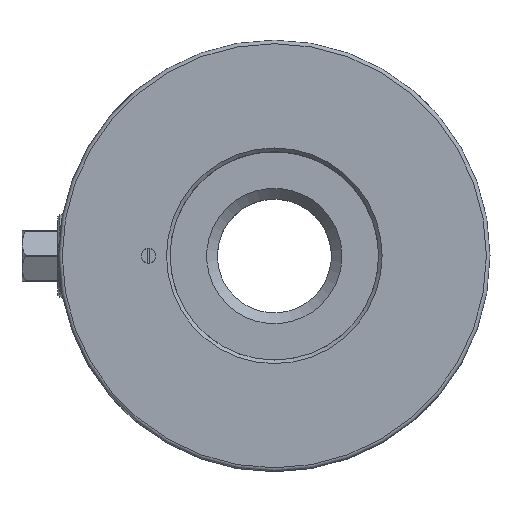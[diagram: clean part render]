
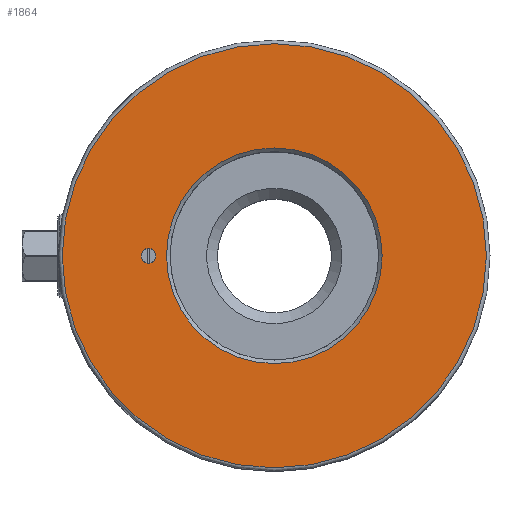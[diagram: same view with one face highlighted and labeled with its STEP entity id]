
A CAD part, top view. The second image highlights one B-rep face of the part: STEP entity #1864.
In plain terms, the highlighted planar face has unit normal (0, 0, 1).
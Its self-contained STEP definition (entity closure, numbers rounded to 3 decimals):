
#145=PLANE('',#1985);
#255=ORIENTED_EDGE('',*,*,#522,.T.);
#256=ORIENTED_EDGE('',*,*,#523,.T.);
#257=ORIENTED_EDGE('',*,*,#524,.T.);
#522=EDGE_CURVE('',#664,#664,#774,.T.);
#523=EDGE_CURVE('',#665,#665,#775,.T.);
#524=EDGE_CURVE('',#666,#666,#776,.F.);
#664=VERTEX_POINT('',#2611);
#665=VERTEX_POINT('',#2614);
#666=VERTEX_POINT('',#2616);
#774=CIRCLE('',#1984,2.067);
#775=CIRCLE('',#1986,30.);
#776=CIRCLE('',#1987,59.);
#869=EDGE_LOOP('',(#255));
#870=EDGE_LOOP('',(#256));
#871=EDGE_LOOP('',(#257));
#1030=FACE_BOUND('',#869,.T.);
#1031=FACE_BOUND('',#870,.T.);
#1032=FACE_BOUND('',#871,.T.);
#1864=ADVANCED_FACE('',(#1030,#1031,#1032),#145,.F.);
#1984=AXIS2_PLACEMENT_3D('',#2610,#2215,#2216);
#1985=AXIS2_PLACEMENT_3D('',#2612,#2217,#2218);
#1986=AXIS2_PLACEMENT_3D('',#2613,#2219,#2220);
#1987=AXIS2_PLACEMENT_3D('',#2615,#2221,#2222);
#2215=DIRECTION('',(0.,0.,-1.));
#2216=DIRECTION('',(0.,1.,0.));
#2217=DIRECTION('',(0.,0.,-1.));
#2218=DIRECTION('',(1.,0.,0.));
#2219=DIRECTION('',(0.,0.,-1.));
#2220=DIRECTION('',(1.,0.,0.));
#2221=DIRECTION('',(0.,0.,-1.));
#2222=DIRECTION('',(1.,0.,0.));
#2610=CARTESIAN_POINT('',(-35.,0.,65.5));
#2611=CARTESIAN_POINT('',(-35.,2.067,65.5));
#2612=CARTESIAN_POINT('',(-60.,0.,65.5));
#2613=CARTESIAN_POINT('',(0.,0.,65.5));
#2614=CARTESIAN_POINT('',(30.,0.,65.5));
#2615=CARTESIAN_POINT('',(0.,0.,65.5));
#2616=CARTESIAN_POINT('',(59.,0.,65.5));
